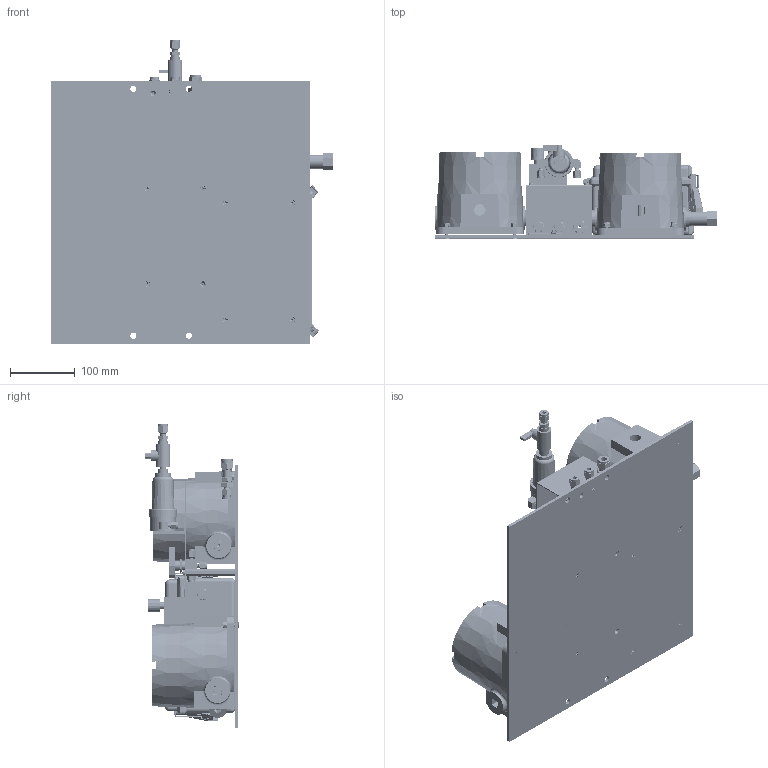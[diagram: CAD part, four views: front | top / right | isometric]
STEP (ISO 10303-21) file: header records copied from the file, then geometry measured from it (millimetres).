
FILE_DESCRIPTION (( 'STEP AP214' ), '1' );
FILE_NAME ('GPR-7500 AIS.STEP', '2025-01-22T22:32:10', ( '' ), ( '' ), 'SwSTEP 2.0', 'SolidWorks 2023', '' );
FILE_SCHEMA (( 'AUTOMOTIVE_DESIGN' ));
Length unit declared in the file: inch
Products named in the file (1): GPR-7500 AIS
Bounding box: 436.37 x 144.23 x 468.93 mm (x, y, z)
Volume: 3912985.6 mm3; surface area: 1560774 mm2
Topology: 320 solids, 320 shells, 9244 faces, 23225 edges, 14847 vertices
Faces by surface type: plane 3675, cylinder 2972, cone 1484, bspline 786, torus 283, sphere 44
Entity records: 427918 total; most frequent: CARTESIAN_POINT 216622, ORIENTED_EDGE 46110, DIRECTION 39023, EDGE_CURVE 23055, VERTEX_POINT 14847, AXIS2_PLACEMENT_3D 14015, LINE 10993, VECTOR 10993
